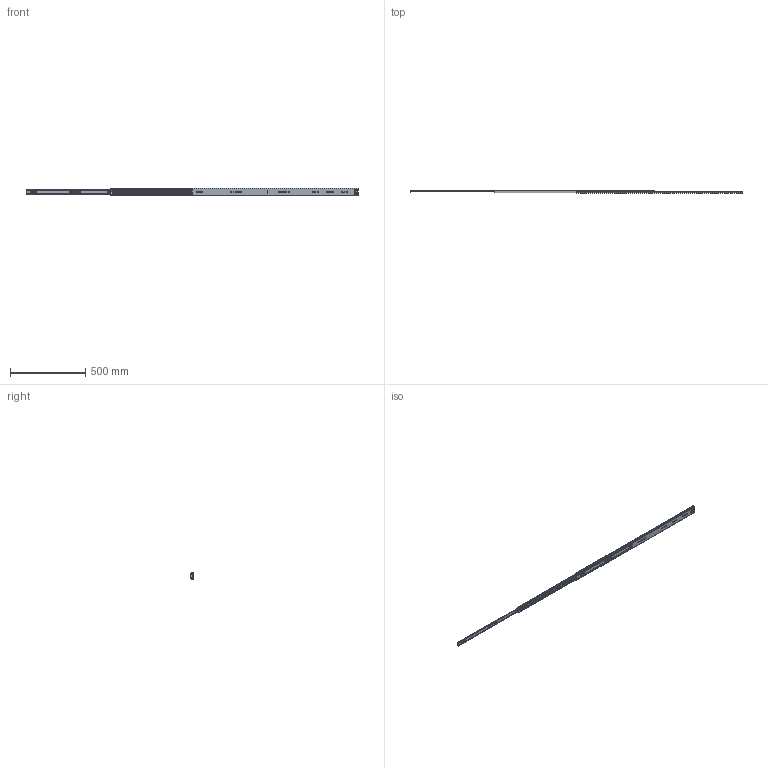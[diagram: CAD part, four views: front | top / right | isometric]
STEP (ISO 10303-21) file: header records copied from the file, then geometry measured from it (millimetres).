
FILE_DESCRIPTION((''),'2;1');
FILE_NAME('1053-02-44_ASM','2022-08-16T',('jishu015'),(''),'PRO/ENGINEER BY PARAMETRIC TECHNOLOGY CORPORATION, 2010280','PRO/ENGINEER BY PARAMETRIC TECHNOLOGY CORPORATION, 2010280','');
FILE_SCHEMA(('CONFIG_CONTROL_DESIGN'));
Products named in the file (16): 1053-02-44WAIKE; 1053WEIJIAO_______; 53-WAIKEJIAO-44; 1053-02-44WAIKE_ASM; 1053ZHUTIAO-175_______; 53-5-6GANZHU_______; 1053ZHUTIAO-175MM________ASM; 1053-02-18ZHONGGUI_______; 53ZHIDIJIAO_______; 1053-02-18ZHONGGUI________ASM; 1053XIAOZHUJIA-14GE_______; 1053XIAOZHUJIA-14GE________ASM; 1053-02-18NEIGUI_______; 53BACHA______; 1053-02-18NEIGUI________ASM; 1053-02-44_ASM
Assembly tree (119 placements, depth 3):
  1053-02-44_ASM
    1053-02-44WAIKE_ASM
      1053-02-44WAIKE
      1053WEIJIAO_______
      53-WAIKEJIAO-44
    1053ZHUTIAO-175MM________ASM  x2
      1053ZHUTIAO-175_______
      53-5-6GANZHU_______
    1053-02-18ZHONGGUI________ASM
      1053-02-18ZHONGGUI_______
      53ZHIDIJIAO_______
    1053XIAOZHUJIA-14GE________ASM
      1053XIAOZHUJIA-14GE_______
      53-5-6GANZHU_______  x84
    1053-02-18NEIGUI________ASM
      1053-02-18NEIGUI_______
      53BACHA______
Bounding box: 2200 x 18.7 x 53 mm (x, y, z)
Volume: 419680.4 mm3; surface area: 484332.6 mm2
Topology: 134 solids, 140 shells, 3185 faces, 9266 edges, 5757 vertices
Faces by surface type: cylinder 1422, plane 1220, sphere 266, cone 124, bspline 119, torus 34
Entity records: 100590 total; most frequent: CARTESIAN_POINT 24036, ORIENTED_EDGE 16116, DIRECTION 15935, EDGE_CURVE 8130, AXIS2_PLACEMENT_3D 5575, VERTEX_POINT 5255, VECTOR 4785, LINE 4785
